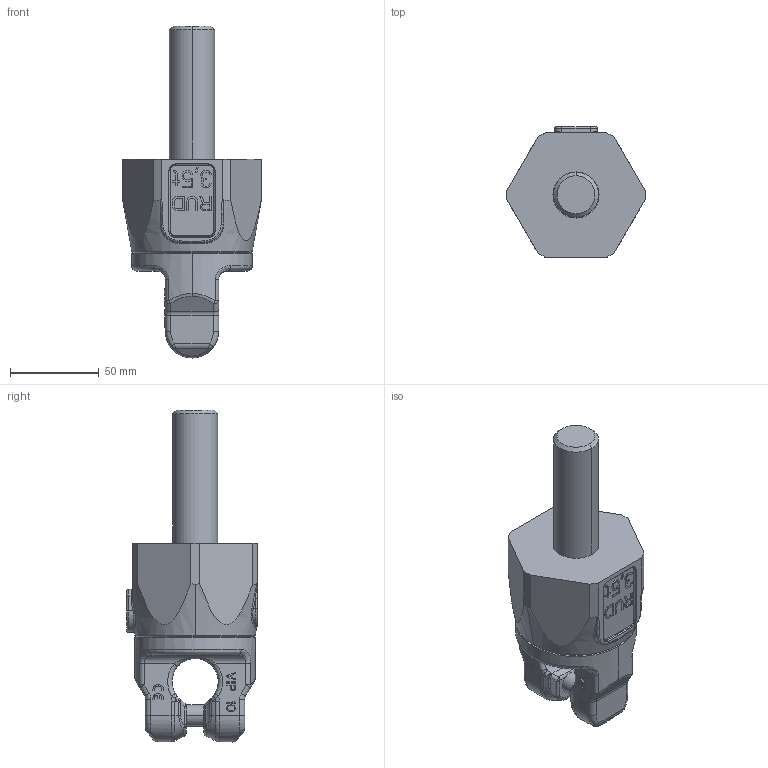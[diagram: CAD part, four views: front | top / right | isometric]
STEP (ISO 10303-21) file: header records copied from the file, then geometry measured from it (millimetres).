
FILE_DESCRIPTION((''),'2;1');
FILE_NAME('001-M31525-P-10_ASM','2019-11-11T',('anja.joas'),(''),'PRO/ENGINEER BY PARAMETRIC TECHNOLOGY CORPORATION, 2011490','PRO/ENGINEER BY PARAMETRIC TECHNOLOGY CORPORATION, 2011490','');
FILE_SCHEMA(('CONFIG_CONTROL_DESIGN'));
Length unit declared in the file: millimetre
Products named in the file (5): 001-M31525-P-70; 001-M34269-P-11; 001-M31341-P-20_AF0; 001-M31525-P-30_ASM; 001-M31525-P-10_ASM
Assembly tree (4 placements, depth 3):
  001-M31525-P-10_ASM
    001-M31525-P-70
    001-M34269-P-11
    001-M31525-P-30_ASM
      001-M31341-P-20_AF0
Bounding box: 78 x 73.5 x 187 mm (x, y, z)
Volume: 312409 mm3; surface area: 55216.1 mm2
Topology: 3 solids, 3 shells, 834 faces, 2215 edges, 1423 vertices
Faces by surface type: plane 607, cylinder 85, bspline 78, torus 44, cone 12, sphere 8
Entity records: 29262 total; most frequent: CARTESIAN_POINT 8899, ORIENTED_EDGE 4430, DIRECTION 3839, EDGE_CURVE 2215, VECTOR 1745, LINE 1745, VERTEX_POINT 1423, AXIS2_PLACEMENT_3D 1047
